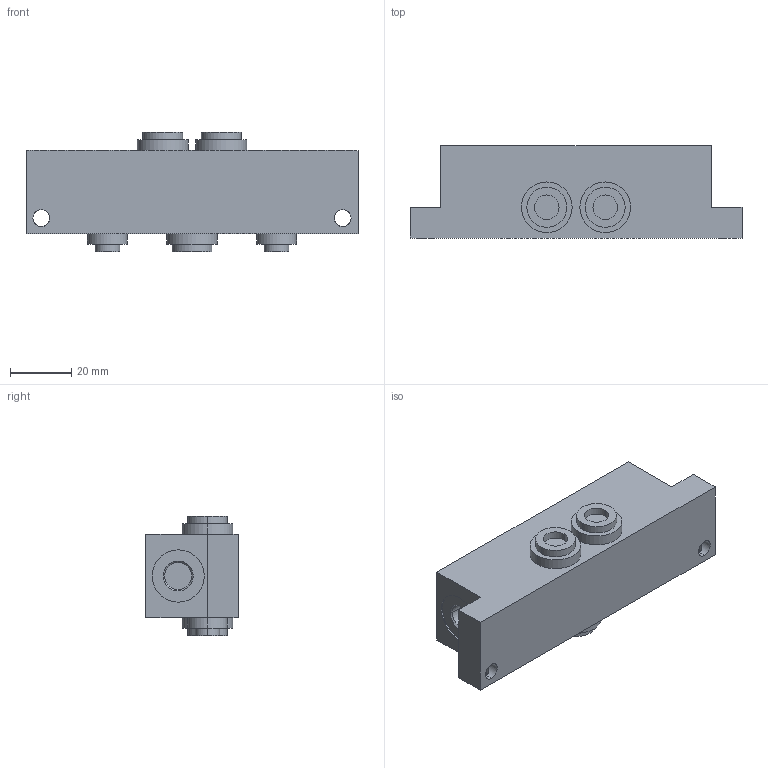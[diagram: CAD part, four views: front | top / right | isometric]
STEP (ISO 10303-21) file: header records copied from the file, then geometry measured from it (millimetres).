
FILE_DESCRIPTION((''),'2;1');
FILE_NAME('8985121382','2015-07-31T',('vol1hc'),(''),'PRO/ENGINEER BY PARAMETRIC TECHNOLOGY CORPORATION, 2012421','PRO/ENGINEER BY PARAMETRIC TECHNOLOGY CORPORATION, 2012421','');
FILE_SCHEMA(('CONFIG_CONTROL_DESIGN','SHAPE_APPEARANCE_LAYERS_GROUPS'));
Length unit declared in the file: millimetre
Products named in the file (1): 8985121382
Bounding box: 108 x 30 x 39 mm (x, y, z)
Volume: 77014.5 mm3; surface area: 16645.1 mm2
Topology: 1 solids, 1 shells, 133 faces, 296 edges, 192 vertices
Faces by surface type: cylinder 74, plane 55, cone 4
Entity records: 4117 total; most frequent: CARTESIAN_POINT 977, DIRECTION 682, ORIENTED_EDGE 592, EDGE_CURVE 296, AXIS2_PLACEMENT_3D 269, VERTEX_POINT 192, EDGE_LOOP 168, VECTOR 144
